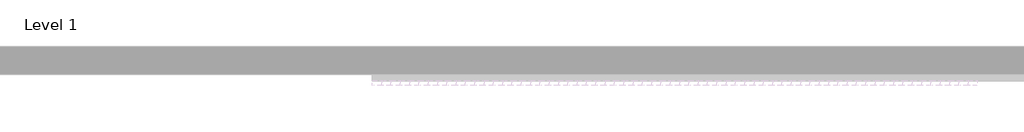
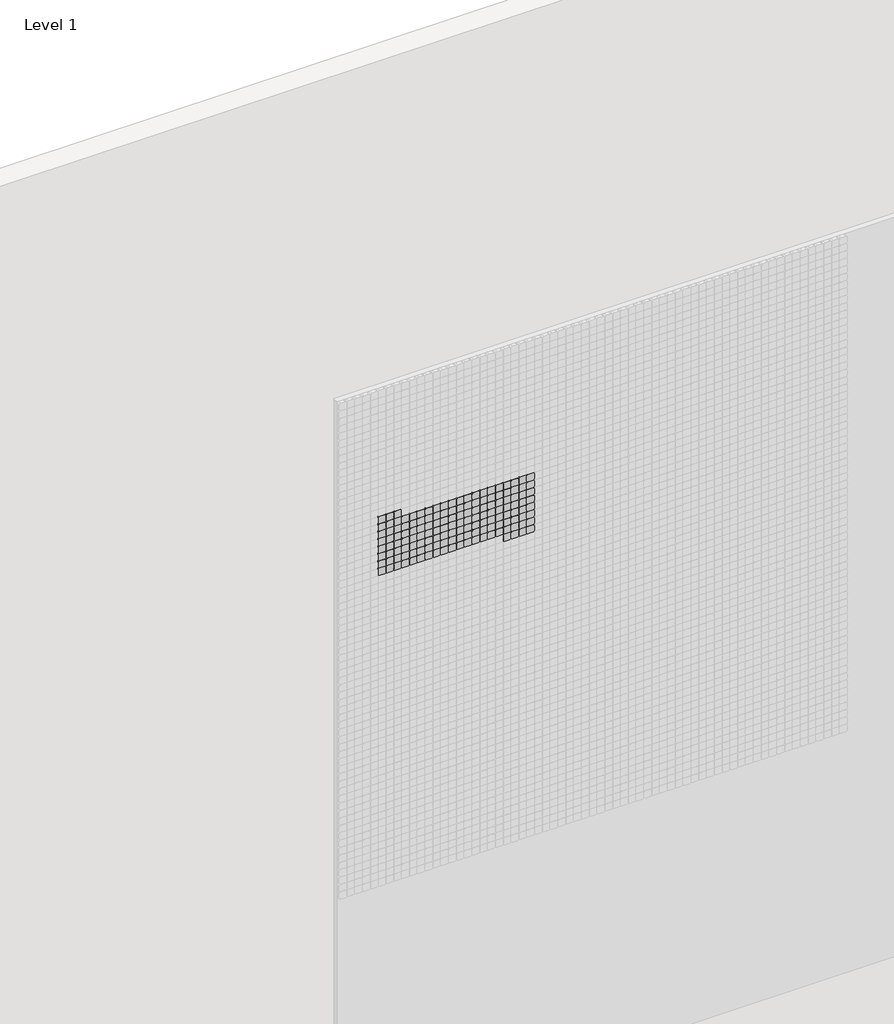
# One storey, part 10 of 71: 147 proxies.
"""IFC4 building model written with IfcOpenShell, lengths in millimetres."""

from ifc_helpers import new_model, si_unit, origin, place, context, project, spatial, transform, mapped, element, save
from components import generic_models_afde289c

model = new_model("IFC4")

# Units and contexts
model_context = context("Model", 3, world=origin())
ifc_project = project(units=[si_unit("LENGTHUNIT", "METRE", prefix="MILLI")], contexts=[model_context])

# Site, building, storey
site = spatial("IfcSite", under=ifc_project)
building = spatial("IfcBuilding", under=site)
storey = spatial("IfcBuildingStorey", under=building, Name="Level 1", Elevation=0.0)

# Proxies
placement = place(None, origin())
generic_models_shape = generic_models_afde289c(model_context)
element("IfcBuildingElementProxy", 1, Name="Pixel_M : Pixel_M", ObjectType="Pixel_M : Pixel_M", at=placement, inside=storey, context=model_context, shape_type="MappedRepresentation", body=[
    mapped(generic_models_shape, transform((5112.4280941, -75.0, 5116.3566215), x_axis=(1.0, 0.0, 0.0), y_axis=(0.0, 0.0, 1.0), z_axis=(0.0, -1.0, 0.0))),
])
element("IfcBuildingElementProxy", 2, Name="Pixel_M : Pixel_M", ObjectType="Pixel_M : Pixel_M", at=placement, inside=storey, context=model_context, shape_type="MappedRepresentation", body=[
    mapped(generic_models_shape, transform((5062.4280941, -75.0, 5116.3566215), x_axis=(1.0, 0.0, 0.0), y_axis=(0.0, 0.0, 1.0), z_axis=(0.0, -1.0, 0.0))),
])
element("IfcBuildingElementProxy", 3, Name="Pixel_M : Pixel_M", ObjectType="Pixel_M : Pixel_M", at=placement, inside=storey, context=model_context, shape_type="MappedRepresentation", body=[
    mapped(generic_models_shape, transform((5012.4280941, -75.0, 5116.3566215), x_axis=(1.0, 0.0, 0.0), y_axis=(0.0, 0.0, 1.0), z_axis=(0.0, -1.0, 0.0))),
])
element("IfcBuildingElementProxy", 4, Name="Pixel_M : Pixel_M", ObjectType="Pixel_M : Pixel_M", at=placement, inside=storey, context=model_context, shape_type="MappedRepresentation", body=[
    mapped(generic_models_shape, transform((5962.4280941, -75.0, 5066.3566215), x_axis=(1.0, 0.0, 0.0), y_axis=(0.0, 0.0, 1.0), z_axis=(0.0, -1.0, 0.0))),
])
element("IfcBuildingElementProxy", 5, Name="Pixel_M : Pixel_M", ObjectType="Pixel_M : Pixel_M", at=placement, inside=storey, context=model_context, shape_type="MappedRepresentation", body=[
    mapped(generic_models_shape, transform((5912.4280941, -75.0, 5066.3566215), x_axis=(1.0, 0.0, 0.0), y_axis=(0.0, 0.0, 1.0), z_axis=(0.0, -1.0, 0.0))),
])
element("IfcBuildingElementProxy", 6, Name="Pixel_M : Pixel_M", ObjectType="Pixel_M : Pixel_M", at=placement, inside=storey, context=model_context, shape_type="MappedRepresentation", body=[
    mapped(generic_models_shape, transform((5862.4280941, -75.0, 5066.3566215), x_axis=(1.0, 0.0, 0.0), y_axis=(0.0, 0.0, 1.0), z_axis=(0.0, -1.0, 0.0))),
])
element("IfcBuildingElementProxy", 7, Name="Pixel_M : Pixel_M", ObjectType="Pixel_M : Pixel_M", at=placement, inside=storey, context=model_context, shape_type="MappedRepresentation", body=[
    mapped(generic_models_shape, transform((5812.4280941, -75.0, 5066.3566215), x_axis=(1.0, 0.0, 0.0), y_axis=(0.0, 0.0, 1.0), z_axis=(0.0, -1.0, 0.0))),
])
element("IfcBuildingElementProxy", 8, Name="Pixel_M : Pixel_M", ObjectType="Pixel_M : Pixel_M", at=placement, inside=storey, context=model_context, shape_type="MappedRepresentation", body=[
    mapped(generic_models_shape, transform((5762.4280941, -75.0, 5066.3566215), x_axis=(1.0, 0.0, 0.0), y_axis=(0.0, 0.0, 1.0), z_axis=(0.0, -1.0, 0.0))),
])
element("IfcBuildingElementProxy", 9, Name="Pixel_M : Pixel_M", ObjectType="Pixel_M : Pixel_M", at=placement, inside=storey, context=model_context, shape_type="MappedRepresentation", body=[
    mapped(generic_models_shape, transform((5712.4280941, -75.0, 5066.3566215), x_axis=(1.0, 0.0, 0.0), y_axis=(0.0, 0.0, 1.0), z_axis=(0.0, -1.0, 0.0))),
])
element("IfcBuildingElementProxy", 10, Name="Pixel_M : Pixel_M", ObjectType="Pixel_M : Pixel_M", at=placement, inside=storey, context=model_context, shape_type="MappedRepresentation", body=[
    mapped(generic_models_shape, transform((5662.4280941, -75.0, 5066.3566215), x_axis=(1.0, 0.0, 0.0), y_axis=(0.0, 0.0, 1.0), z_axis=(0.0, -1.0, 0.0))),
])
element("IfcBuildingElementProxy", 11, Name="Pixel_M : Pixel_M", ObjectType="Pixel_M : Pixel_M", at=placement, inside=storey, context=model_context, shape_type="MappedRepresentation", body=[
    mapped(generic_models_shape, transform((5612.4280941, -75.0, 5066.3566215), x_axis=(1.0, 0.0, 0.0), y_axis=(0.0, 0.0, 1.0), z_axis=(0.0, -1.0, 0.0))),
])
element("IfcBuildingElementProxy", 12, Name="Pixel_M : Pixel_M", ObjectType="Pixel_M : Pixel_M", at=placement, inside=storey, context=model_context, shape_type="MappedRepresentation", body=[
    mapped(generic_models_shape, transform((5562.4280941, -75.0, 5066.3566215), x_axis=(1.0, 0.0, 0.0), y_axis=(0.0, 0.0, 1.0), z_axis=(0.0, -1.0, 0.0))),
])
element("IfcBuildingElementProxy", 13, Name="Pixel_M : Pixel_M", ObjectType="Pixel_M : Pixel_M", at=placement, inside=storey, context=model_context, shape_type="MappedRepresentation", body=[
    mapped(generic_models_shape, transform((5512.4280941, -75.0, 5066.3566215), x_axis=(1.0, 0.0, 0.0), y_axis=(0.0, 0.0, 1.0), z_axis=(0.0, -1.0, 0.0))),
])
element("IfcBuildingElementProxy", 14, Name="Pixel_M : Pixel_M", ObjectType="Pixel_M : Pixel_M", at=placement, inside=storey, context=model_context, shape_type="MappedRepresentation", body=[
    mapped(generic_models_shape, transform((5462.4280941, -75.0, 5066.3566215), x_axis=(1.0, 0.0, 0.0), y_axis=(0.0, 0.0, 1.0), z_axis=(0.0, -1.0, 0.0))),
])
element("IfcBuildingElementProxy", 15, Name="Pixel_M : Pixel_M", ObjectType="Pixel_M : Pixel_M", at=placement, inside=storey, context=model_context, shape_type="MappedRepresentation", body=[
    mapped(generic_models_shape, transform((5412.4280941, -75.0, 5066.3566215), x_axis=(1.0, 0.0, 0.0), y_axis=(0.0, 0.0, 1.0), z_axis=(0.0, -1.0, 0.0))),
])
element("IfcBuildingElementProxy", 16, Name="Pixel_M : Pixel_M", ObjectType="Pixel_M : Pixel_M", at=placement, inside=storey, context=model_context, shape_type="MappedRepresentation", body=[
    mapped(generic_models_shape, transform((5362.4280941, -75.0, 5066.3566215), x_axis=(1.0, 0.0, 0.0), y_axis=(0.0, 0.0, 1.0), z_axis=(0.0, -1.0, 0.0))),
])
element("IfcBuildingElementProxy", 17, Name="Pixel_M : Pixel_M", ObjectType="Pixel_M : Pixel_M", at=placement, inside=storey, context=model_context, shape_type="MappedRepresentation", body=[
    mapped(generic_models_shape, transform((5312.4280941, -75.0, 5066.3566215), x_axis=(1.0, 0.0, 0.0), y_axis=(0.0, 0.0, 1.0), z_axis=(0.0, -1.0, 0.0))),
])
element("IfcBuildingElementProxy", 18, Name="Pixel_M : Pixel_M", ObjectType="Pixel_M : Pixel_M", at=placement, inside=storey, context=model_context, shape_type="MappedRepresentation", body=[
    mapped(generic_models_shape, transform((5262.4280941, -75.0, 5066.3566215), x_axis=(1.0, 0.0, 0.0), y_axis=(0.0, 0.0, 1.0), z_axis=(0.0, -1.0, 0.0))),
])
element("IfcBuildingElementProxy", 19, Name="Pixel_M : Pixel_M", ObjectType="Pixel_M : Pixel_M", at=placement, inside=storey, context=model_context, shape_type="MappedRepresentation", body=[
    mapped(generic_models_shape, transform((5212.4280941, -75.0, 5066.3566215), x_axis=(1.0, 0.0, 0.0), y_axis=(0.0, 0.0, 1.0), z_axis=(0.0, -1.0, 0.0))),
])
element("IfcBuildingElementProxy", 20, Name="Pixel_M : Pixel_M", ObjectType="Pixel_M : Pixel_M", at=placement, inside=storey, context=model_context, shape_type="MappedRepresentation", body=[
    mapped(generic_models_shape, transform((5162.4280941, -75.0, 5066.3566215), x_axis=(1.0, 0.0, 0.0), y_axis=(0.0, 0.0, 1.0), z_axis=(0.0, -1.0, 0.0))),
])
element("IfcBuildingElementProxy", 21, Name="Pixel_M : Pixel_M", ObjectType="Pixel_M : Pixel_M", at=placement, inside=storey, context=model_context, shape_type="MappedRepresentation", body=[
    mapped(generic_models_shape, transform((5112.4280941, -75.0, 5066.3566215), x_axis=(1.0, 0.0, 0.0), y_axis=(0.0, 0.0, 1.0), z_axis=(0.0, -1.0, 0.0))),
])
element("IfcBuildingElementProxy", 22, Name="Pixel_M : Pixel_M", ObjectType="Pixel_M : Pixel_M", at=placement, inside=storey, context=model_context, shape_type="MappedRepresentation", body=[
    mapped(generic_models_shape, transform((5062.4280941, -75.0, 5066.3566215), x_axis=(1.0, 0.0, 0.0), y_axis=(0.0, 0.0, 1.0), z_axis=(0.0, -1.0, 0.0))),
])
element("IfcBuildingElementProxy", 23, Name="Pixel_M : Pixel_M", ObjectType="Pixel_M : Pixel_M", at=placement, inside=storey, context=model_context, shape_type="MappedRepresentation", body=[
    mapped(generic_models_shape, transform((5012.4280941, -75.0, 5066.3566215), x_axis=(1.0, 0.0, 0.0), y_axis=(0.0, 0.0, 1.0), z_axis=(0.0, -1.0, 0.0))),
])
element("IfcBuildingElementProxy", 24, Name="Pixel_M : Pixel_M", ObjectType="Pixel_M : Pixel_M", at=placement, inside=storey, context=model_context, shape_type="MappedRepresentation", body=[
    mapped(generic_models_shape, transform((5962.4280941, -75.0, 5016.3566215), x_axis=(1.0, 0.0, 0.0), y_axis=(0.0, 0.0, 1.0), z_axis=(0.0, -1.0, 0.0))),
])
element("IfcBuildingElementProxy", 25, Name="Pixel_M : Pixel_M", ObjectType="Pixel_M : Pixel_M", at=placement, inside=storey, context=model_context, shape_type="MappedRepresentation", body=[
    mapped(generic_models_shape, transform((5912.4280941, -75.0, 5016.3566215), x_axis=(1.0, 0.0, 0.0), y_axis=(0.0, 0.0, 1.0), z_axis=(0.0, -1.0, 0.0))),
])
element("IfcBuildingElementProxy", 26, Name="Pixel_M : Pixel_M", ObjectType="Pixel_M : Pixel_M", at=placement, inside=storey, context=model_context, shape_type="MappedRepresentation", body=[
    mapped(generic_models_shape, transform((5862.4280941, -75.0, 5016.3566215), x_axis=(1.0, 0.0, 0.0), y_axis=(0.0, 0.0, 1.0), z_axis=(0.0, -1.0, 0.0))),
])
element("IfcBuildingElementProxy", 27, Name="Pixel_M : Pixel_M", ObjectType="Pixel_M : Pixel_M", at=placement, inside=storey, context=model_context, shape_type="MappedRepresentation", body=[
    mapped(generic_models_shape, transform((5812.4280941, -75.0, 5016.3566215), x_axis=(1.0, 0.0, 0.0), y_axis=(0.0, 0.0, 1.0), z_axis=(0.0, -1.0, 0.0))),
])
element("IfcBuildingElementProxy", 28, Name="Pixel_M : Pixel_M", ObjectType="Pixel_M : Pixel_M", at=placement, inside=storey, context=model_context, shape_type="MappedRepresentation", body=[
    mapped(generic_models_shape, transform((5762.4280941, -75.0, 5016.3566215), x_axis=(1.0, 0.0, 0.0), y_axis=(0.0, 0.0, 1.0), z_axis=(0.0, -1.0, 0.0))),
])
element("IfcBuildingElementProxy", 29, Name="Pixel_M : Pixel_M", ObjectType="Pixel_M : Pixel_M", at=placement, inside=storey, context=model_context, shape_type="MappedRepresentation", body=[
    mapped(generic_models_shape, transform((5712.4280941, -75.0, 5016.3566215), x_axis=(1.0, 0.0, 0.0), y_axis=(0.0, 0.0, 1.0), z_axis=(0.0, -1.0, 0.0))),
])
element("IfcBuildingElementProxy", 30, Name="Pixel_M : Pixel_M", ObjectType="Pixel_M : Pixel_M", at=placement, inside=storey, context=model_context, shape_type="MappedRepresentation", body=[
    mapped(generic_models_shape, transform((5662.4280941, -75.0, 5016.3566215), x_axis=(1.0, 0.0, 0.0), y_axis=(0.0, 0.0, 1.0), z_axis=(0.0, -1.0, 0.0))),
])
element("IfcBuildingElementProxy", 31, Name="Pixel_M : Pixel_M", ObjectType="Pixel_M : Pixel_M", at=placement, inside=storey, context=model_context, shape_type="MappedRepresentation", body=[
    mapped(generic_models_shape, transform((5612.4280941, -75.0, 5016.3566215), x_axis=(1.0, 0.0, 0.0), y_axis=(0.0, 0.0, 1.0), z_axis=(0.0, -1.0, 0.0))),
])
element("IfcBuildingElementProxy", 32, Name="Pixel_M : Pixel_M", ObjectType="Pixel_M : Pixel_M", at=placement, inside=storey, context=model_context, shape_type="MappedRepresentation", body=[
    mapped(generic_models_shape, transform((5562.4280941, -75.0, 5016.3566215), x_axis=(1.0, 0.0, 0.0), y_axis=(0.0, 0.0, 1.0), z_axis=(0.0, -1.0, 0.0))),
])
element("IfcBuildingElementProxy", 33, Name="Pixel_M : Pixel_M", ObjectType="Pixel_M : Pixel_M", at=placement, inside=storey, context=model_context, shape_type="MappedRepresentation", body=[
    mapped(generic_models_shape, transform((5512.4280941, -75.0, 5016.3566215), x_axis=(1.0, 0.0, 0.0), y_axis=(0.0, 0.0, 1.0), z_axis=(0.0, -1.0, 0.0))),
])
element("IfcBuildingElementProxy", 34, Name="Pixel_M : Pixel_M", ObjectType="Pixel_M : Pixel_M", at=placement, inside=storey, context=model_context, shape_type="MappedRepresentation", body=[
    mapped(generic_models_shape, transform((5462.4280941, -75.0, 5016.3566215), x_axis=(1.0, 0.0, 0.0), y_axis=(0.0, 0.0, 1.0), z_axis=(0.0, -1.0, 0.0))),
])
element("IfcBuildingElementProxy", 35, Name="Pixel_M : Pixel_M", ObjectType="Pixel_M : Pixel_M", at=placement, inside=storey, context=model_context, shape_type="MappedRepresentation", body=[
    mapped(generic_models_shape, transform((5412.4280941, -75.0, 5016.3566215), x_axis=(1.0, 0.0, 0.0), y_axis=(0.0, 0.0, 1.0), z_axis=(0.0, -1.0, 0.0))),
])
element("IfcBuildingElementProxy", 36, Name="Pixel_M : Pixel_M", ObjectType="Pixel_M : Pixel_M", at=placement, inside=storey, context=model_context, shape_type="MappedRepresentation", body=[
    mapped(generic_models_shape, transform((5362.4280941, -75.0, 5016.3566215), x_axis=(1.0, 0.0, 0.0), y_axis=(0.0, 0.0, 1.0), z_axis=(0.0, -1.0, 0.0))),
])
element("IfcBuildingElementProxy", 37, Name="Pixel_M : Pixel_M", ObjectType="Pixel_M : Pixel_M", at=placement, inside=storey, context=model_context, shape_type="MappedRepresentation", body=[
    mapped(generic_models_shape, transform((5312.4280941, -75.0, 5016.3566215), x_axis=(1.0, 0.0, 0.0), y_axis=(0.0, 0.0, 1.0), z_axis=(0.0, -1.0, 0.0))),
])
element("IfcBuildingElementProxy", 38, Name="Pixel_M : Pixel_M", ObjectType="Pixel_M : Pixel_M", at=placement, inside=storey, context=model_context, shape_type="MappedRepresentation", body=[
    mapped(generic_models_shape, transform((5262.4280941, -75.0, 5016.3566215), x_axis=(1.0, 0.0, 0.0), y_axis=(0.0, 0.0, 1.0), z_axis=(0.0, -1.0, 0.0))),
])
element("IfcBuildingElementProxy", 39, Name="Pixel_M : Pixel_M", ObjectType="Pixel_M : Pixel_M", at=placement, inside=storey, context=model_context, shape_type="MappedRepresentation", body=[
    mapped(generic_models_shape, transform((5212.4280941, -75.0, 5016.3566215), x_axis=(1.0, 0.0, 0.0), y_axis=(0.0, 0.0, 1.0), z_axis=(0.0, -1.0, 0.0))),
])
element("IfcBuildingElementProxy", 40, Name="Pixel_M : Pixel_M", ObjectType="Pixel_M : Pixel_M", at=placement, inside=storey, context=model_context, shape_type="MappedRepresentation", body=[
    mapped(generic_models_shape, transform((5162.4280941, -75.0, 5016.3566215), x_axis=(1.0, 0.0, 0.0), y_axis=(0.0, 0.0, 1.0), z_axis=(0.0, -1.0, 0.0))),
])
element("IfcBuildingElementProxy", 41, Name="Pixel_M : Pixel_M", ObjectType="Pixel_M : Pixel_M", at=placement, inside=storey, context=model_context, shape_type="MappedRepresentation", body=[
    mapped(generic_models_shape, transform((5112.4280941, -75.0, 5016.3566215), x_axis=(1.0, 0.0, 0.0), y_axis=(0.0, 0.0, 1.0), z_axis=(0.0, -1.0, 0.0))),
])
element("IfcBuildingElementProxy", 42, Name="Pixel_M : Pixel_M", ObjectType="Pixel_M : Pixel_M", at=placement, inside=storey, context=model_context, shape_type="MappedRepresentation", body=[
    mapped(generic_models_shape, transform((5062.4280941, -75.0, 5016.3566215), x_axis=(1.0, 0.0, 0.0), y_axis=(0.0, 0.0, 1.0), z_axis=(0.0, -1.0, 0.0))),
])
element("IfcBuildingElementProxy", 43, Name="Pixel_M : Pixel_M", ObjectType="Pixel_M : Pixel_M", at=placement, inside=storey, context=model_context, shape_type="MappedRepresentation", body=[
    mapped(generic_models_shape, transform((5012.4280941, -75.0, 5016.3566215), x_axis=(1.0, 0.0, 0.0), y_axis=(0.0, 0.0, 1.0), z_axis=(0.0, -1.0, 0.0))),
])
element("IfcBuildingElementProxy", 44, Name="Pixel_M : Pixel_M", ObjectType="Pixel_M : Pixel_M", at=placement, inside=storey, context=model_context, shape_type="MappedRepresentation", body=[
    mapped(generic_models_shape, transform((5962.4280941, -75.0, 4966.3566215), x_axis=(1.0, 0.0, 0.0), y_axis=(0.0, 0.0, 1.0), z_axis=(0.0, -1.0, 0.0))),
])
element("IfcBuildingElementProxy", 45, Name="Pixel_M : Pixel_M", ObjectType="Pixel_M : Pixel_M", at=placement, inside=storey, context=model_context, shape_type="MappedRepresentation", body=[
    mapped(generic_models_shape, transform((5912.4280941, -75.0, 4966.3566215), x_axis=(1.0, 0.0, 0.0), y_axis=(0.0, 0.0, 1.0), z_axis=(0.0, -1.0, 0.0))),
])
element("IfcBuildingElementProxy", 46, Name="Pixel_M : Pixel_M", ObjectType="Pixel_M : Pixel_M", at=placement, inside=storey, context=model_context, shape_type="MappedRepresentation", body=[
    mapped(generic_models_shape, transform((5862.4280941, -75.0, 4966.3566215), x_axis=(1.0, 0.0, 0.0), y_axis=(0.0, 0.0, 1.0), z_axis=(0.0, -1.0, 0.0))),
])
element("IfcBuildingElementProxy", 47, Name="Pixel_M : Pixel_M", ObjectType="Pixel_M : Pixel_M", at=placement, inside=storey, context=model_context, shape_type="MappedRepresentation", body=[
    mapped(generic_models_shape, transform((5812.4280941, -75.0, 4966.3566215), x_axis=(1.0, 0.0, 0.0), y_axis=(0.0, 0.0, 1.0), z_axis=(0.0, -1.0, 0.0))),
])
element("IfcBuildingElementProxy", 48, Name="Pixel_M : Pixel_M", ObjectType="Pixel_M : Pixel_M", at=placement, inside=storey, context=model_context, shape_type="MappedRepresentation", body=[
    mapped(generic_models_shape, transform((5762.4280941, -75.0, 4966.3566215), x_axis=(1.0, 0.0, 0.0), y_axis=(0.0, 0.0, 1.0), z_axis=(0.0, -1.0, 0.0))),
])
element("IfcBuildingElementProxy", 49, Name="Pixel_M : Pixel_M", ObjectType="Pixel_M : Pixel_M", at=placement, inside=storey, context=model_context, shape_type="MappedRepresentation", body=[
    mapped(generic_models_shape, transform((5712.4280941, -75.0, 4966.3566215), x_axis=(1.0, 0.0, 0.0), y_axis=(0.0, 0.0, 1.0), z_axis=(0.0, -1.0, 0.0))),
])
element("IfcBuildingElementProxy", 50, Name="Pixel_M : Pixel_M", ObjectType="Pixel_M : Pixel_M", at=placement, inside=storey, context=model_context, shape_type="MappedRepresentation", body=[
    mapped(generic_models_shape, transform((5662.4280941, -75.0, 4966.3566215), x_axis=(1.0, 0.0, 0.0), y_axis=(0.0, 0.0, 1.0), z_axis=(0.0, -1.0, 0.0))),
])
element("IfcBuildingElementProxy", 51, Name="Pixel_M : Pixel_M", ObjectType="Pixel_M : Pixel_M", at=placement, inside=storey, context=model_context, shape_type="MappedRepresentation", body=[
    mapped(generic_models_shape, transform((5612.4280941, -75.0, 4966.3566215), x_axis=(1.0, 0.0, 0.0), y_axis=(0.0, 0.0, 1.0), z_axis=(0.0, -1.0, 0.0))),
])
element("IfcBuildingElementProxy", 52, Name="Pixel_M : Pixel_M", ObjectType="Pixel_M : Pixel_M", at=placement, inside=storey, context=model_context, shape_type="MappedRepresentation", body=[
    mapped(generic_models_shape, transform((5562.4280941, -75.0, 4966.3566215), x_axis=(1.0, 0.0, 0.0), y_axis=(0.0, 0.0, 1.0), z_axis=(0.0, -1.0, 0.0))),
])
element("IfcBuildingElementProxy", 53, Name="Pixel_M : Pixel_M", ObjectType="Pixel_M : Pixel_M", at=placement, inside=storey, context=model_context, shape_type="MappedRepresentation", body=[
    mapped(generic_models_shape, transform((5512.4280941, -75.0, 4966.3566215), x_axis=(1.0, 0.0, 0.0), y_axis=(0.0, 0.0, 1.0), z_axis=(0.0, -1.0, 0.0))),
])
element("IfcBuildingElementProxy", 54, Name="Pixel_M : Pixel_M", ObjectType="Pixel_M : Pixel_M", at=placement, inside=storey, context=model_context, shape_type="MappedRepresentation", body=[
    mapped(generic_models_shape, transform((5462.4280941, -75.0, 4966.3566215), x_axis=(1.0, 0.0, 0.0), y_axis=(0.0, 0.0, 1.0), z_axis=(0.0, -1.0, 0.0))),
])
element("IfcBuildingElementProxy", 55, Name="Pixel_M : Pixel_M", ObjectType="Pixel_M : Pixel_M", at=placement, inside=storey, context=model_context, shape_type="MappedRepresentation", body=[
    mapped(generic_models_shape, transform((5412.4280941, -75.0, 4966.3566215), x_axis=(1.0, 0.0, 0.0), y_axis=(0.0, 0.0, 1.0), z_axis=(0.0, -1.0, 0.0))),
])
element("IfcBuildingElementProxy", 56, Name="Pixel_M : Pixel_M", ObjectType="Pixel_M : Pixel_M", at=placement, inside=storey, context=model_context, shape_type="MappedRepresentation", body=[
    mapped(generic_models_shape, transform((5362.4280941, -75.0, 4966.3566215), x_axis=(1.0, 0.0, 0.0), y_axis=(0.0, 0.0, 1.0), z_axis=(0.0, -1.0, 0.0))),
])
element("IfcBuildingElementProxy", 57, Name="Pixel_M : Pixel_M", ObjectType="Pixel_M : Pixel_M", at=placement, inside=storey, context=model_context, shape_type="MappedRepresentation", body=[
    mapped(generic_models_shape, transform((5312.4280941, -75.0, 4966.3566215), x_axis=(1.0, 0.0, 0.0), y_axis=(0.0, 0.0, 1.0), z_axis=(0.0, -1.0, 0.0))),
])
element("IfcBuildingElementProxy", 58, Name="Pixel_M : Pixel_M", ObjectType="Pixel_M : Pixel_M", at=placement, inside=storey, context=model_context, shape_type="MappedRepresentation", body=[
    mapped(generic_models_shape, transform((5262.4280941, -75.0, 4966.3566215), x_axis=(1.0, 0.0, 0.0), y_axis=(0.0, 0.0, 1.0), z_axis=(0.0, -1.0, 0.0))),
])
element("IfcBuildingElementProxy", 59, Name="Pixel_M : Pixel_M", ObjectType="Pixel_M : Pixel_M", at=placement, inside=storey, context=model_context, shape_type="MappedRepresentation", body=[
    mapped(generic_models_shape, transform((5212.4280941, -75.0, 4966.3566215), x_axis=(1.0, 0.0, 0.0), y_axis=(0.0, 0.0, 1.0), z_axis=(0.0, -1.0, 0.0))),
])
element("IfcBuildingElementProxy", 60, Name="Pixel_M : Pixel_M", ObjectType="Pixel_M : Pixel_M", at=placement, inside=storey, context=model_context, shape_type="MappedRepresentation", body=[
    mapped(generic_models_shape, transform((5162.4280941, -75.0, 4966.3566215), x_axis=(1.0, 0.0, 0.0), y_axis=(0.0, 0.0, 1.0), z_axis=(0.0, -1.0, 0.0))),
])
element("IfcBuildingElementProxy", 61, Name="Pixel_M : Pixel_M", ObjectType="Pixel_M : Pixel_M", at=placement, inside=storey, context=model_context, shape_type="MappedRepresentation", body=[
    mapped(generic_models_shape, transform((5112.4280941, -75.0, 4966.3566215), x_axis=(1.0, 0.0, 0.0), y_axis=(0.0, 0.0, 1.0), z_axis=(0.0, -1.0, 0.0))),
])
element("IfcBuildingElementProxy", 62, Name="Pixel_M : Pixel_M", ObjectType="Pixel_M : Pixel_M", at=placement, inside=storey, context=model_context, shape_type="MappedRepresentation", body=[
    mapped(generic_models_shape, transform((5062.4280941, -75.0, 4966.3566215), x_axis=(1.0, 0.0, 0.0), y_axis=(0.0, 0.0, 1.0), z_axis=(0.0, -1.0, 0.0))),
])
element("IfcBuildingElementProxy", 63, Name="Pixel_M : Pixel_M", ObjectType="Pixel_M : Pixel_M", at=placement, inside=storey, context=model_context, shape_type="MappedRepresentation", body=[
    mapped(generic_models_shape, transform((5012.4280941, -75.0, 4966.3566215), x_axis=(1.0, 0.0, 0.0), y_axis=(0.0, 0.0, 1.0), z_axis=(0.0, -1.0, 0.0))),
])
element("IfcBuildingElementProxy", 64, Name="Pixel_M : Pixel_M", ObjectType="Pixel_M : Pixel_M", at=placement, inside=storey, context=model_context, shape_type="MappedRepresentation", body=[
    mapped(generic_models_shape, transform((5962.4280941, -75.0, 4916.3566215), x_axis=(1.0, 0.0, 0.0), y_axis=(0.0, 0.0, 1.0), z_axis=(0.0, -1.0, 0.0))),
])
element("IfcBuildingElementProxy", 65, Name="Pixel_M : Pixel_M", ObjectType="Pixel_M : Pixel_M", at=placement, inside=storey, context=model_context, shape_type="MappedRepresentation", body=[
    mapped(generic_models_shape, transform((5912.4280941, -75.0, 4916.3566215), x_axis=(1.0, 0.0, 0.0), y_axis=(0.0, 0.0, 1.0), z_axis=(0.0, -1.0, 0.0))),
])
element("IfcBuildingElementProxy", 66, Name="Pixel_M : Pixel_M", ObjectType="Pixel_M : Pixel_M", at=placement, inside=storey, context=model_context, shape_type="MappedRepresentation", body=[
    mapped(generic_models_shape, transform((5862.4280941, -75.0, 4916.3566215), x_axis=(1.0, 0.0, 0.0), y_axis=(0.0, 0.0, 1.0), z_axis=(0.0, -1.0, 0.0))),
])
element("IfcBuildingElementProxy", 67, Name="Pixel_M : Pixel_M", ObjectType="Pixel_M : Pixel_M", at=placement, inside=storey, context=model_context, shape_type="MappedRepresentation", body=[
    mapped(generic_models_shape, transform((5812.4280941, -75.0, 4916.3566215), x_axis=(1.0, 0.0, 0.0), y_axis=(0.0, 0.0, 1.0), z_axis=(0.0, -1.0, 0.0))),
])
element("IfcBuildingElementProxy", 68, Name="Pixel_M : Pixel_M", ObjectType="Pixel_M : Pixel_M", at=placement, inside=storey, context=model_context, shape_type="MappedRepresentation", body=[
    mapped(generic_models_shape, transform((5762.4280941, -75.0, 4916.3566215), x_axis=(1.0, 0.0, 0.0), y_axis=(0.0, 0.0, 1.0), z_axis=(0.0, -1.0, 0.0))),
])
element("IfcBuildingElementProxy", 69, Name="Pixel_M : Pixel_M", ObjectType="Pixel_M : Pixel_M", at=placement, inside=storey, context=model_context, shape_type="MappedRepresentation", body=[
    mapped(generic_models_shape, transform((5712.4280941, -75.0, 4916.3566215), x_axis=(1.0, 0.0, 0.0), y_axis=(0.0, 0.0, 1.0), z_axis=(0.0, -1.0, 0.0))),
])
element("IfcBuildingElementProxy", 70, Name="Pixel_M : Pixel_M", ObjectType="Pixel_M : Pixel_M", at=placement, inside=storey, context=model_context, shape_type="MappedRepresentation", body=[
    mapped(generic_models_shape, transform((5662.4280941, -75.0, 4916.3566215), x_axis=(1.0, 0.0, 0.0), y_axis=(0.0, 0.0, 1.0), z_axis=(0.0, -1.0, 0.0))),
])
element("IfcBuildingElementProxy", 71, Name="Pixel_M : Pixel_M", ObjectType="Pixel_M : Pixel_M", at=placement, inside=storey, context=model_context, shape_type="MappedRepresentation", body=[
    mapped(generic_models_shape, transform((5612.4280941, -75.0, 4916.3566215), x_axis=(1.0, 0.0, 0.0), y_axis=(0.0, 0.0, 1.0), z_axis=(0.0, -1.0, 0.0))),
])
element("IfcBuildingElementProxy", 72, Name="Pixel_M : Pixel_M", ObjectType="Pixel_M : Pixel_M", at=placement, inside=storey, context=model_context, shape_type="MappedRepresentation", body=[
    mapped(generic_models_shape, transform((5562.4280941, -75.0, 4916.3566215), x_axis=(1.0, 0.0, 0.0), y_axis=(0.0, 0.0, 1.0), z_axis=(0.0, -1.0, 0.0))),
])
element("IfcBuildingElementProxy", 73, Name="Pixel_M : Pixel_M", ObjectType="Pixel_M : Pixel_M", at=placement, inside=storey, context=model_context, shape_type="MappedRepresentation", body=[
    mapped(generic_models_shape, transform((5512.4280941, -75.0, 4916.3566215), x_axis=(1.0, 0.0, 0.0), y_axis=(0.0, 0.0, 1.0), z_axis=(0.0, -1.0, 0.0))),
])
element("IfcBuildingElementProxy", 74, Name="Pixel_M : Pixel_M", ObjectType="Pixel_M : Pixel_M", at=placement, inside=storey, context=model_context, shape_type="MappedRepresentation", body=[
    mapped(generic_models_shape, transform((5462.4280941, -75.0, 4916.3566215), x_axis=(1.0, 0.0, 0.0), y_axis=(0.0, 0.0, 1.0), z_axis=(0.0, -1.0, 0.0))),
])
element("IfcBuildingElementProxy", 75, Name="Pixel_M : Pixel_M", ObjectType="Pixel_M : Pixel_M", at=placement, inside=storey, context=model_context, shape_type="MappedRepresentation", body=[
    mapped(generic_models_shape, transform((5412.4280941, -75.0, 4916.3566215), x_axis=(1.0, 0.0, 0.0), y_axis=(0.0, 0.0, 1.0), z_axis=(0.0, -1.0, 0.0))),
])
element("IfcBuildingElementProxy", 76, Name="Pixel_M : Pixel_M", ObjectType="Pixel_M : Pixel_M", at=placement, inside=storey, context=model_context, shape_type="MappedRepresentation", body=[
    mapped(generic_models_shape, transform((5362.4280941, -75.0, 4916.3566215), x_axis=(1.0, 0.0, 0.0), y_axis=(0.0, 0.0, 1.0), z_axis=(0.0, -1.0, 0.0))),
])
element("IfcBuildingElementProxy", 77, Name="Pixel_M : Pixel_M", ObjectType="Pixel_M : Pixel_M", at=placement, inside=storey, context=model_context, shape_type="MappedRepresentation", body=[
    mapped(generic_models_shape, transform((5312.4280941, -75.0, 4916.3566215), x_axis=(1.0, 0.0, 0.0), y_axis=(0.0, 0.0, 1.0), z_axis=(0.0, -1.0, 0.0))),
])
element("IfcBuildingElementProxy", 78, Name="Pixel_M : Pixel_M", ObjectType="Pixel_M : Pixel_M", at=placement, inside=storey, context=model_context, shape_type="MappedRepresentation", body=[
    mapped(generic_models_shape, transform((5262.4280941, -75.0, 4916.3566215), x_axis=(1.0, 0.0, 0.0), y_axis=(0.0, 0.0, 1.0), z_axis=(0.0, -1.0, 0.0))),
])
element("IfcBuildingElementProxy", 79, Name="Pixel_M : Pixel_M", ObjectType="Pixel_M : Pixel_M", at=placement, inside=storey, context=model_context, shape_type="MappedRepresentation", body=[
    mapped(generic_models_shape, transform((5212.4280941, -75.0, 4916.3566215), x_axis=(1.0, 0.0, 0.0), y_axis=(0.0, 0.0, 1.0), z_axis=(0.0, -1.0, 0.0))),
])
element("IfcBuildingElementProxy", 80, Name="Pixel_M : Pixel_M", ObjectType="Pixel_M : Pixel_M", at=placement, inside=storey, context=model_context, shape_type="MappedRepresentation", body=[
    mapped(generic_models_shape, transform((5162.4280941, -75.0, 4916.3566215), x_axis=(1.0, 0.0, 0.0), y_axis=(0.0, 0.0, 1.0), z_axis=(0.0, -1.0, 0.0))),
])
element("IfcBuildingElementProxy", 81, Name="Pixel_M : Pixel_M", ObjectType="Pixel_M : Pixel_M", at=placement, inside=storey, context=model_context, shape_type="MappedRepresentation", body=[
    mapped(generic_models_shape, transform((5112.4280941, -75.0, 4916.3566215), x_axis=(1.0, 0.0, 0.0), y_axis=(0.0, 0.0, 1.0), z_axis=(0.0, -1.0, 0.0))),
])
element("IfcBuildingElementProxy", 82, Name="Pixel_M : Pixel_M", ObjectType="Pixel_M : Pixel_M", at=placement, inside=storey, context=model_context, shape_type="MappedRepresentation", body=[
    mapped(generic_models_shape, transform((5062.4280941, -75.0, 4916.3566215), x_axis=(1.0, 0.0, 0.0), y_axis=(0.0, 0.0, 1.0), z_axis=(0.0, -1.0, 0.0))),
])
element("IfcBuildingElementProxy", 83, Name="Pixel_M : Pixel_M", ObjectType="Pixel_M : Pixel_M", at=placement, inside=storey, context=model_context, shape_type="MappedRepresentation", body=[
    mapped(generic_models_shape, transform((5012.4280941, -75.0, 4916.3566215), x_axis=(1.0, 0.0, 0.0), y_axis=(0.0, 0.0, 1.0), z_axis=(0.0, -1.0, 0.0))),
])
element("IfcBuildingElementProxy", 84, Name="Pixel_M : Pixel_M", ObjectType="Pixel_M : Pixel_M", at=placement, inside=storey, context=model_context, shape_type="MappedRepresentation", body=[
    mapped(generic_models_shape, transform((5962.4280941, -75.0, 4866.3566215), x_axis=(1.0, 0.0, 0.0), y_axis=(0.0, 0.0, 1.0), z_axis=(0.0, -1.0, 0.0))),
])
element("IfcBuildingElementProxy", 85, Name="Pixel_M : Pixel_M", ObjectType="Pixel_M : Pixel_M", at=placement, inside=storey, context=model_context, shape_type="MappedRepresentation", body=[
    mapped(generic_models_shape, transform((5912.4280941, -75.0, 4866.3566215), x_axis=(1.0, 0.0, 0.0), y_axis=(0.0, 0.0, 1.0), z_axis=(0.0, -1.0, 0.0))),
])
element("IfcBuildingElementProxy", 86, Name="Pixel_M : Pixel_M", ObjectType="Pixel_M : Pixel_M", at=placement, inside=storey, context=model_context, shape_type="MappedRepresentation", body=[
    mapped(generic_models_shape, transform((5862.4280941, -75.0, 4866.3566215), x_axis=(1.0, 0.0, 0.0), y_axis=(0.0, 0.0, 1.0), z_axis=(0.0, -1.0, 0.0))),
])
element("IfcBuildingElementProxy", 87, Name="Pixel_M : Pixel_M", ObjectType="Pixel_M : Pixel_M", at=placement, inside=storey, context=model_context, shape_type="MappedRepresentation", body=[
    mapped(generic_models_shape, transform((5812.4280941, -75.0, 4866.3566215), x_axis=(1.0, 0.0, 0.0), y_axis=(0.0, 0.0, 1.0), z_axis=(0.0, -1.0, 0.0))),
])
element("IfcBuildingElementProxy", 88, Name="Pixel_M : Pixel_M", ObjectType="Pixel_M : Pixel_M", at=placement, inside=storey, context=model_context, shape_type="MappedRepresentation", body=[
    mapped(generic_models_shape, transform((5762.4280941, -75.0, 4866.3566215), x_axis=(1.0, 0.0, 0.0), y_axis=(0.0, 0.0, 1.0), z_axis=(0.0, -1.0, 0.0))),
])
element("IfcBuildingElementProxy", 89, Name="Pixel_M : Pixel_M", ObjectType="Pixel_M : Pixel_M", at=placement, inside=storey, context=model_context, shape_type="MappedRepresentation", body=[
    mapped(generic_models_shape, transform((5712.4280941, -75.0, 4866.3566215), x_axis=(1.0, 0.0, 0.0), y_axis=(0.0, 0.0, 1.0), z_axis=(0.0, -1.0, 0.0))),
])
element("IfcBuildingElementProxy", 90, Name="Pixel_M : Pixel_M", ObjectType="Pixel_M : Pixel_M", at=placement, inside=storey, context=model_context, shape_type="MappedRepresentation", body=[
    mapped(generic_models_shape, transform((5662.4280941, -75.0, 4866.3566215), x_axis=(1.0, 0.0, 0.0), y_axis=(0.0, 0.0, 1.0), z_axis=(0.0, -1.0, 0.0))),
])
element("IfcBuildingElementProxy", 91, Name="Pixel_M : Pixel_M", ObjectType="Pixel_M : Pixel_M", at=placement, inside=storey, context=model_context, shape_type="MappedRepresentation", body=[
    mapped(generic_models_shape, transform((5612.4280941, -75.0, 4866.3566215), x_axis=(1.0, 0.0, 0.0), y_axis=(0.0, 0.0, 1.0), z_axis=(0.0, -1.0, 0.0))),
])
element("IfcBuildingElementProxy", 92, Name="Pixel_M : Pixel_M", ObjectType="Pixel_M : Pixel_M", at=placement, inside=storey, context=model_context, shape_type="MappedRepresentation", body=[
    mapped(generic_models_shape, transform((5562.4280941, -75.0, 4866.3566215), x_axis=(1.0, 0.0, 0.0), y_axis=(0.0, 0.0, 1.0), z_axis=(0.0, -1.0, 0.0))),
])
element("IfcBuildingElementProxy", 93, Name="Pixel_M : Pixel_M", ObjectType="Pixel_M : Pixel_M", at=placement, inside=storey, context=model_context, shape_type="MappedRepresentation", body=[
    mapped(generic_models_shape, transform((5512.4280941, -75.0, 4866.3566215), x_axis=(1.0, 0.0, 0.0), y_axis=(0.0, 0.0, 1.0), z_axis=(0.0, -1.0, 0.0))),
])
element("IfcBuildingElementProxy", 94, Name="Pixel_M : Pixel_M", ObjectType="Pixel_M : Pixel_M", at=placement, inside=storey, context=model_context, shape_type="MappedRepresentation", body=[
    mapped(generic_models_shape, transform((5462.4280941, -75.0, 4866.3566215), x_axis=(1.0, 0.0, 0.0), y_axis=(0.0, 0.0, 1.0), z_axis=(0.0, -1.0, 0.0))),
])
element("IfcBuildingElementProxy", 95, Name="Pixel_M : Pixel_M", ObjectType="Pixel_M : Pixel_M", at=placement, inside=storey, context=model_context, shape_type="MappedRepresentation", body=[
    mapped(generic_models_shape, transform((5412.4280941, -75.0, 4866.3566215), x_axis=(1.0, 0.0, 0.0), y_axis=(0.0, 0.0, 1.0), z_axis=(0.0, -1.0, 0.0))),
])
element("IfcBuildingElementProxy", 96, Name="Pixel_M : Pixel_M", ObjectType="Pixel_M : Pixel_M", at=placement, inside=storey, context=model_context, shape_type="MappedRepresentation", body=[
    mapped(generic_models_shape, transform((5362.4280941, -75.0, 4866.3566215), x_axis=(1.0, 0.0, 0.0), y_axis=(0.0, 0.0, 1.0), z_axis=(0.0, -1.0, 0.0))),
])
element("IfcBuildingElementProxy", 97, Name="Pixel_M : Pixel_M", ObjectType="Pixel_M : Pixel_M", at=placement, inside=storey, context=model_context, shape_type="MappedRepresentation", body=[
    mapped(generic_models_shape, transform((5312.4280941, -75.0, 4866.3566215), x_axis=(1.0, 0.0, 0.0), y_axis=(0.0, 0.0, 1.0), z_axis=(0.0, -1.0, 0.0))),
])
element("IfcBuildingElementProxy", 98, Name="Pixel_M : Pixel_M", ObjectType="Pixel_M : Pixel_M", at=placement, inside=storey, context=model_context, shape_type="MappedRepresentation", body=[
    mapped(generic_models_shape, transform((5262.4280941, -75.0, 4866.3566215), x_axis=(1.0, 0.0, 0.0), y_axis=(0.0, 0.0, 1.0), z_axis=(0.0, -1.0, 0.0))),
])
element("IfcBuildingElementProxy", 99, Name="Pixel_M : Pixel_M", ObjectType="Pixel_M : Pixel_M", at=placement, inside=storey, context=model_context, shape_type="MappedRepresentation", body=[
    mapped(generic_models_shape, transform((5212.4280941, -75.0, 4866.3566215), x_axis=(1.0, 0.0, 0.0), y_axis=(0.0, 0.0, 1.0), z_axis=(0.0, -1.0, 0.0))),
])
element("IfcBuildingElementProxy", 100, Name="Pixel_M : Pixel_M", ObjectType="Pixel_M : Pixel_M", at=placement, inside=storey, context=model_context, shape_type="MappedRepresentation", body=[
    mapped(generic_models_shape, transform((5162.4280941, -75.0, 4866.3566215), x_axis=(1.0, 0.0, 0.0), y_axis=(0.0, 0.0, 1.0), z_axis=(0.0, -1.0, 0.0))),
])
element("IfcBuildingElementProxy", 101, Name="Pixel_M : Pixel_M", ObjectType="Pixel_M : Pixel_M", at=placement, inside=storey, context=model_context, shape_type="MappedRepresentation", body=[
    mapped(generic_models_shape, transform((5112.4280941, -75.0, 4866.3566215), x_axis=(1.0, 0.0, 0.0), y_axis=(0.0, 0.0, 1.0), z_axis=(0.0, -1.0, 0.0))),
])
element("IfcBuildingElementProxy", 102, Name="Pixel_M : Pixel_M", ObjectType="Pixel_M : Pixel_M", at=placement, inside=storey, context=model_context, shape_type="MappedRepresentation", body=[
    mapped(generic_models_shape, transform((5062.4280941, -75.0, 4866.3566215), x_axis=(1.0, 0.0, 0.0), y_axis=(0.0, 0.0, 1.0), z_axis=(0.0, -1.0, 0.0))),
])
element("IfcBuildingElementProxy", 103, Name="Pixel_M : Pixel_M", ObjectType="Pixel_M : Pixel_M", at=placement, inside=storey, context=model_context, shape_type="MappedRepresentation", body=[
    mapped(generic_models_shape, transform((5012.4280941, -75.0, 4866.3566215), x_axis=(1.0, 0.0, 0.0), y_axis=(0.0, 0.0, 1.0), z_axis=(0.0, -1.0, 0.0))),
])
element("IfcBuildingElementProxy", 104, Name="Pixel_M : Pixel_M", ObjectType="Pixel_M : Pixel_M", at=placement, inside=storey, context=model_context, shape_type="MappedRepresentation", body=[
    mapped(generic_models_shape, transform((5962.4280941, -75.0, 4816.3566215), x_axis=(1.0, 0.0, 0.0), y_axis=(0.0, 0.0, 1.0), z_axis=(0.0, -1.0, 0.0))),
])
element("IfcBuildingElementProxy", 105, Name="Pixel_M : Pixel_M", ObjectType="Pixel_M : Pixel_M", at=placement, inside=storey, context=model_context, shape_type="MappedRepresentation", body=[
    mapped(generic_models_shape, transform((5912.4280941, -75.0, 4816.3566215), x_axis=(1.0, 0.0, 0.0), y_axis=(0.0, 0.0, 1.0), z_axis=(0.0, -1.0, 0.0))),
])
element("IfcBuildingElementProxy", 106, Name="Pixel_M : Pixel_M", ObjectType="Pixel_M : Pixel_M", at=placement, inside=storey, context=model_context, shape_type="MappedRepresentation", body=[
    mapped(generic_models_shape, transform((5862.4280941, -75.0, 4816.3566215), x_axis=(1.0, 0.0, 0.0), y_axis=(0.0, 0.0, 1.0), z_axis=(0.0, -1.0, 0.0))),
])
element("IfcBuildingElementProxy", 107, Name="Pixel_M : Pixel_M", ObjectType="Pixel_M : Pixel_M", at=placement, inside=storey, context=model_context, shape_type="MappedRepresentation", body=[
    mapped(generic_models_shape, transform((5812.4280941, -75.0, 4816.3566215), x_axis=(1.0, 0.0, 0.0), y_axis=(0.0, 0.0, 1.0), z_axis=(0.0, -1.0, 0.0))),
])
element("IfcBuildingElementProxy", 108, Name="Pixel_M : Pixel_M", ObjectType="Pixel_M : Pixel_M", at=placement, inside=storey, context=model_context, shape_type="MappedRepresentation", body=[
    mapped(generic_models_shape, transform((5762.4280941, -75.0, 4816.3566215), x_axis=(1.0, 0.0, 0.0), y_axis=(0.0, 0.0, 1.0), z_axis=(0.0, -1.0, 0.0))),
])
element("IfcBuildingElementProxy", 109, Name="Pixel_M : Pixel_M", ObjectType="Pixel_M : Pixel_M", at=placement, inside=storey, context=model_context, shape_type="MappedRepresentation", body=[
    mapped(generic_models_shape, transform((5712.4280941, -75.0, 4816.3566215), x_axis=(1.0, 0.0, 0.0), y_axis=(0.0, 0.0, 1.0), z_axis=(0.0, -1.0, 0.0))),
])
element("IfcBuildingElementProxy", 110, Name="Pixel_M : Pixel_M", ObjectType="Pixel_M : Pixel_M", at=placement, inside=storey, context=model_context, shape_type="MappedRepresentation", body=[
    mapped(generic_models_shape, transform((5662.4280941, -75.0, 4816.3566215), x_axis=(1.0, 0.0, 0.0), y_axis=(0.0, 0.0, 1.0), z_axis=(0.0, -1.0, 0.0))),
])
element("IfcBuildingElementProxy", 111, Name="Pixel_M : Pixel_M", ObjectType="Pixel_M : Pixel_M", at=placement, inside=storey, context=model_context, shape_type="MappedRepresentation", body=[
    mapped(generic_models_shape, transform((5612.4280941, -75.0, 4816.3566215), x_axis=(1.0, 0.0, 0.0), y_axis=(0.0, 0.0, 1.0), z_axis=(0.0, -1.0, 0.0))),
])
element("IfcBuildingElementProxy", 112, Name="Pixel_M : Pixel_M", ObjectType="Pixel_M : Pixel_M", at=placement, inside=storey, context=model_context, shape_type="MappedRepresentation", body=[
    mapped(generic_models_shape, transform((5562.4280941, -75.0, 4816.3566215), x_axis=(1.0, 0.0, 0.0), y_axis=(0.0, 0.0, 1.0), z_axis=(0.0, -1.0, 0.0))),
])
element("IfcBuildingElementProxy", 113, Name="Pixel_M : Pixel_M", ObjectType="Pixel_M : Pixel_M", at=placement, inside=storey, context=model_context, shape_type="MappedRepresentation", body=[
    mapped(generic_models_shape, transform((5512.4280941, -75.0, 4816.3566215), x_axis=(1.0, 0.0, 0.0), y_axis=(0.0, 0.0, 1.0), z_axis=(0.0, -1.0, 0.0))),
])
element("IfcBuildingElementProxy", 114, Name="Pixel_M : Pixel_M", ObjectType="Pixel_M : Pixel_M", at=placement, inside=storey, context=model_context, shape_type="MappedRepresentation", body=[
    mapped(generic_models_shape, transform((5462.4280941, -75.0, 4816.3566215), x_axis=(1.0, 0.0, 0.0), y_axis=(0.0, 0.0, 1.0), z_axis=(0.0, -1.0, 0.0))),
])
element("IfcBuildingElementProxy", 115, Name="Pixel_M : Pixel_M", ObjectType="Pixel_M : Pixel_M", at=placement, inside=storey, context=model_context, shape_type="MappedRepresentation", body=[
    mapped(generic_models_shape, transform((5412.4280941, -75.0, 4816.3566215), x_axis=(1.0, 0.0, 0.0), y_axis=(0.0, 0.0, 1.0), z_axis=(0.0, -1.0, 0.0))),
])
element("IfcBuildingElementProxy", 116, Name="Pixel_M : Pixel_M", ObjectType="Pixel_M : Pixel_M", at=placement, inside=storey, context=model_context, shape_type="MappedRepresentation", body=[
    mapped(generic_models_shape, transform((5362.4280941, -75.0, 4816.3566215), x_axis=(1.0, 0.0, 0.0), y_axis=(0.0, 0.0, 1.0), z_axis=(0.0, -1.0, 0.0))),
])
element("IfcBuildingElementProxy", 117, Name="Pixel_M : Pixel_M", ObjectType="Pixel_M : Pixel_M", at=placement, inside=storey, context=model_context, shape_type="MappedRepresentation", body=[
    mapped(generic_models_shape, transform((5312.4280941, -75.0, 4816.3566215), x_axis=(1.0, 0.0, 0.0), y_axis=(0.0, 0.0, 1.0), z_axis=(0.0, -1.0, 0.0))),
])
element("IfcBuildingElementProxy", 118, Name="Pixel_M : Pixel_M", ObjectType="Pixel_M : Pixel_M", at=placement, inside=storey, context=model_context, shape_type="MappedRepresentation", body=[
    mapped(generic_models_shape, transform((5262.4280941, -75.0, 4816.3566215), x_axis=(1.0, 0.0, 0.0), y_axis=(0.0, 0.0, 1.0), z_axis=(0.0, -1.0, 0.0))),
])
element("IfcBuildingElementProxy", 119, Name="Pixel_M : Pixel_M", ObjectType="Pixel_M : Pixel_M", at=placement, inside=storey, context=model_context, shape_type="MappedRepresentation", body=[
    mapped(generic_models_shape, transform((5212.4280941, -75.0, 4816.3566215), x_axis=(1.0, 0.0, 0.0), y_axis=(0.0, 0.0, 1.0), z_axis=(0.0, -1.0, 0.0))),
])
element("IfcBuildingElementProxy", 120, Name="Pixel_M : Pixel_M", ObjectType="Pixel_M : Pixel_M", at=placement, inside=storey, context=model_context, shape_type="MappedRepresentation", body=[
    mapped(generic_models_shape, transform((5162.4280941, -75.0, 4816.3566215), x_axis=(1.0, 0.0, 0.0), y_axis=(0.0, 0.0, 1.0), z_axis=(0.0, -1.0, 0.0))),
])
element("IfcBuildingElementProxy", 121, Name="Pixel_M : Pixel_M", ObjectType="Pixel_M : Pixel_M", at=placement, inside=storey, context=model_context, shape_type="MappedRepresentation", body=[
    mapped(generic_models_shape, transform((5112.4280941, -75.0, 4816.3566215), x_axis=(1.0, 0.0, 0.0), y_axis=(0.0, 0.0, 1.0), z_axis=(0.0, -1.0, 0.0))),
])
element("IfcBuildingElementProxy", 122, Name="Pixel_M : Pixel_M", ObjectType="Pixel_M : Pixel_M", at=placement, inside=storey, context=model_context, shape_type="MappedRepresentation", body=[
    mapped(generic_models_shape, transform((5062.4280941, -75.0, 4816.3566215), x_axis=(1.0, 0.0, 0.0), y_axis=(0.0, 0.0, 1.0), z_axis=(0.0, -1.0, 0.0))),
])
element("IfcBuildingElementProxy", 123, Name="Pixel_M : Pixel_M", ObjectType="Pixel_M : Pixel_M", at=placement, inside=storey, context=model_context, shape_type="MappedRepresentation", body=[
    mapped(generic_models_shape, transform((5012.4280941, -75.0, 4816.3566215), x_axis=(1.0, 0.0, 0.0), y_axis=(0.0, 0.0, 1.0), z_axis=(0.0, -1.0, 0.0))),
])
element("IfcBuildingElementProxy", 124, Name="Pixel_M : Pixel_M", ObjectType="Pixel_M : Pixel_M", at=placement, inside=storey, context=model_context, shape_type="MappedRepresentation", body=[
    mapped(generic_models_shape, transform((5962.4280941, -75.0, 4766.3566215), x_axis=(1.0, 0.0, 0.0), y_axis=(0.0, 0.0, 1.0), z_axis=(0.0, -1.0, 0.0))),
])
element("IfcBuildingElementProxy", 125, Name="Pixel_M : Pixel_M", ObjectType="Pixel_M : Pixel_M", at=placement, inside=storey, context=model_context, shape_type="MappedRepresentation", body=[
    mapped(generic_models_shape, transform((5912.4280941, -75.0, 4766.3566215), x_axis=(1.0, 0.0, 0.0), y_axis=(0.0, 0.0, 1.0), z_axis=(0.0, -1.0, 0.0))),
])
element("IfcBuildingElementProxy", 126, Name="Pixel_M : Pixel_M", ObjectType="Pixel_M : Pixel_M", at=placement, inside=storey, context=model_context, shape_type="MappedRepresentation", body=[
    mapped(generic_models_shape, transform((5862.4280941, -75.0, 4766.3566215), x_axis=(1.0, 0.0, 0.0), y_axis=(0.0, 0.0, 1.0), z_axis=(0.0, -1.0, 0.0))),
])
element("IfcBuildingElementProxy", 127, Name="Pixel_M : Pixel_M", ObjectType="Pixel_M : Pixel_M", at=placement, inside=storey, context=model_context, shape_type="MappedRepresentation", body=[
    mapped(generic_models_shape, transform((5812.4280941, -75.0, 4766.3566215), x_axis=(1.0, 0.0, 0.0), y_axis=(0.0, 0.0, 1.0), z_axis=(0.0, -1.0, 0.0))),
])
element("IfcBuildingElementProxy", 128, Name="Pixel_M : Pixel_M", ObjectType="Pixel_M : Pixel_M", at=placement, inside=storey, context=model_context, shape_type="MappedRepresentation", body=[
    mapped(generic_models_shape, transform((5762.4280941, -75.0, 4766.3566215), x_axis=(1.0, 0.0, 0.0), y_axis=(0.0, 0.0, 1.0), z_axis=(0.0, -1.0, 0.0))),
])
element("IfcBuildingElementProxy", 129, Name="Pixel_M : Pixel_M", ObjectType="Pixel_M : Pixel_M", at=placement, inside=storey, context=model_context, shape_type="MappedRepresentation", body=[
    mapped(generic_models_shape, transform((5712.4280941, -75.0, 4766.3566215), x_axis=(1.0, 0.0, 0.0), y_axis=(0.0, 0.0, 1.0), z_axis=(0.0, -1.0, 0.0))),
])
element("IfcBuildingElementProxy", 130, Name="Pixel_M : Pixel_M", ObjectType="Pixel_M : Pixel_M", at=placement, inside=storey, context=model_context, shape_type="MappedRepresentation", body=[
    mapped(generic_models_shape, transform((5662.4280941, -75.0, 4766.3566215), x_axis=(1.0, 0.0, 0.0), y_axis=(0.0, 0.0, 1.0), z_axis=(0.0, -1.0, 0.0))),
])
element("IfcBuildingElementProxy", 131, Name="Pixel_M : Pixel_M", ObjectType="Pixel_M : Pixel_M", at=placement, inside=storey, context=model_context, shape_type="MappedRepresentation", body=[
    mapped(generic_models_shape, transform((5612.4280941, -75.0, 4766.3566215), x_axis=(1.0, 0.0, 0.0), y_axis=(0.0, 0.0, 1.0), z_axis=(0.0, -1.0, 0.0))),
])
element("IfcBuildingElementProxy", 132, Name="Pixel_M : Pixel_M", ObjectType="Pixel_M : Pixel_M", at=placement, inside=storey, context=model_context, shape_type="MappedRepresentation", body=[
    mapped(generic_models_shape, transform((5562.4280941, -75.0, 4766.3566215), x_axis=(1.0, 0.0, 0.0), y_axis=(0.0, 0.0, 1.0), z_axis=(0.0, -1.0, 0.0))),
])
element("IfcBuildingElementProxy", 133, Name="Pixel_M : Pixel_M", ObjectType="Pixel_M : Pixel_M", at=placement, inside=storey, context=model_context, shape_type="MappedRepresentation", body=[
    mapped(generic_models_shape, transform((5512.4280941, -75.0, 4766.3566215), x_axis=(1.0, 0.0, 0.0), y_axis=(0.0, 0.0, 1.0), z_axis=(0.0, -1.0, 0.0))),
])
element("IfcBuildingElementProxy", 134, Name="Pixel_M : Pixel_M", ObjectType="Pixel_M : Pixel_M", at=placement, inside=storey, context=model_context, shape_type="MappedRepresentation", body=[
    mapped(generic_models_shape, transform((5462.4280941, -75.0, 4766.3566215), x_axis=(1.0, 0.0, 0.0), y_axis=(0.0, 0.0, 1.0), z_axis=(0.0, -1.0, 0.0))),
])
element("IfcBuildingElementProxy", 135, Name="Pixel_M : Pixel_M", ObjectType="Pixel_M : Pixel_M", at=placement, inside=storey, context=model_context, shape_type="MappedRepresentation", body=[
    mapped(generic_models_shape, transform((5412.4280941, -75.0, 4766.3566215), x_axis=(1.0, 0.0, 0.0), y_axis=(0.0, 0.0, 1.0), z_axis=(0.0, -1.0, 0.0))),
])
element("IfcBuildingElementProxy", 136, Name="Pixel_M : Pixel_M", ObjectType="Pixel_M : Pixel_M", at=placement, inside=storey, context=model_context, shape_type="MappedRepresentation", body=[
    mapped(generic_models_shape, transform((5362.4280941, -75.0, 4766.3566215), x_axis=(1.0, 0.0, 0.0), y_axis=(0.0, 0.0, 1.0), z_axis=(0.0, -1.0, 0.0))),
])
element("IfcBuildingElementProxy", 137, Name="Pixel_M : Pixel_M", ObjectType="Pixel_M : Pixel_M", at=placement, inside=storey, context=model_context, shape_type="MappedRepresentation", body=[
    mapped(generic_models_shape, transform((5312.4280941, -75.0, 4766.3566215), x_axis=(1.0, 0.0, 0.0), y_axis=(0.0, 0.0, 1.0), z_axis=(0.0, -1.0, 0.0))),
])
element("IfcBuildingElementProxy", 138, Name="Pixel_M : Pixel_M", ObjectType="Pixel_M : Pixel_M", at=placement, inside=storey, context=model_context, shape_type="MappedRepresentation", body=[
    mapped(generic_models_shape, transform((5262.4280941, -75.0, 4766.3566215), x_axis=(1.0, 0.0, 0.0), y_axis=(0.0, 0.0, 1.0), z_axis=(0.0, -1.0, 0.0))),
])
element("IfcBuildingElementProxy", 139, Name="Pixel_M : Pixel_M", ObjectType="Pixel_M : Pixel_M", at=placement, inside=storey, context=model_context, shape_type="MappedRepresentation", body=[
    mapped(generic_models_shape, transform((5212.4280941, -75.0, 4766.3566215), x_axis=(1.0, 0.0, 0.0), y_axis=(0.0, 0.0, 1.0), z_axis=(0.0, -1.0, 0.0))),
])
element("IfcBuildingElementProxy", 140, Name="Pixel_M : Pixel_M", ObjectType="Pixel_M : Pixel_M", at=placement, inside=storey, context=model_context, shape_type="MappedRepresentation", body=[
    mapped(generic_models_shape, transform((5162.4280941, -75.0, 4766.3566215), x_axis=(1.0, 0.0, 0.0), y_axis=(0.0, 0.0, 1.0), z_axis=(0.0, -1.0, 0.0))),
])
element("IfcBuildingElementProxy", 141, Name="Pixel_M : Pixel_M", ObjectType="Pixel_M : Pixel_M", at=placement, inside=storey, context=model_context, shape_type="MappedRepresentation", body=[
    mapped(generic_models_shape, transform((5112.4280941, -75.0, 4766.3566215), x_axis=(1.0, 0.0, 0.0), y_axis=(0.0, 0.0, 1.0), z_axis=(0.0, -1.0, 0.0))),
])
element("IfcBuildingElementProxy", 142, Name="Pixel_M : Pixel_M", ObjectType="Pixel_M : Pixel_M", at=placement, inside=storey, context=model_context, shape_type="MappedRepresentation", body=[
    mapped(generic_models_shape, transform((5062.4280941, -75.0, 4766.3566215), x_axis=(1.0, 0.0, 0.0), y_axis=(0.0, 0.0, 1.0), z_axis=(0.0, -1.0, 0.0))),
])
element("IfcBuildingElementProxy", 143, Name="Pixel_M : Pixel_M", ObjectType="Pixel_M : Pixel_M", at=placement, inside=storey, context=model_context, shape_type="MappedRepresentation", body=[
    mapped(generic_models_shape, transform((5012.4280941, -75.0, 4766.3566215), x_axis=(1.0, 0.0, 0.0), y_axis=(0.0, 0.0, 1.0), z_axis=(0.0, -1.0, 0.0))),
])
element("IfcBuildingElementProxy", 144, Name="Pixel_M : Pixel_M", ObjectType="Pixel_M : Pixel_M", at=placement, inside=storey, context=model_context, shape_type="MappedRepresentation", body=[
    mapped(generic_models_shape, transform((5962.4280941, -75.0, 4716.3566215), x_axis=(1.0, 0.0, 0.0), y_axis=(0.0, 0.0, 1.0), z_axis=(0.0, -1.0, 0.0))),
])
element("IfcBuildingElementProxy", 145, Name="Pixel_M : Pixel_M", ObjectType="Pixel_M : Pixel_M", at=placement, inside=storey, context=model_context, shape_type="MappedRepresentation", body=[
    mapped(generic_models_shape, transform((5912.4280941, -75.0, 4716.3566215), x_axis=(1.0, 0.0, 0.0), y_axis=(0.0, 0.0, 1.0), z_axis=(0.0, -1.0, 0.0))),
])
element("IfcBuildingElementProxy", 146, Name="Pixel_M : Pixel_M", ObjectType="Pixel_M : Pixel_M", at=placement, inside=storey, context=model_context, shape_type="MappedRepresentation", body=[
    mapped(generic_models_shape, transform((5862.4280941, -75.0, 4716.3566215), x_axis=(1.0, 0.0, 0.0), y_axis=(0.0, 0.0, 1.0), z_axis=(0.0, -1.0, 0.0))),
])
element("IfcBuildingElementProxy", 147, Name="Pixel_M : Pixel_M", ObjectType="Pixel_M : Pixel_M", at=placement, inside=storey, context=model_context, shape_type="MappedRepresentation", body=[
    mapped(generic_models_shape, transform((5812.4280941, -75.0, 4716.3566215), x_axis=(1.0, 0.0, 0.0), y_axis=(0.0, 0.0, 1.0), z_axis=(0.0, -1.0, 0.0))),
])

save(model, "model.ifc")
